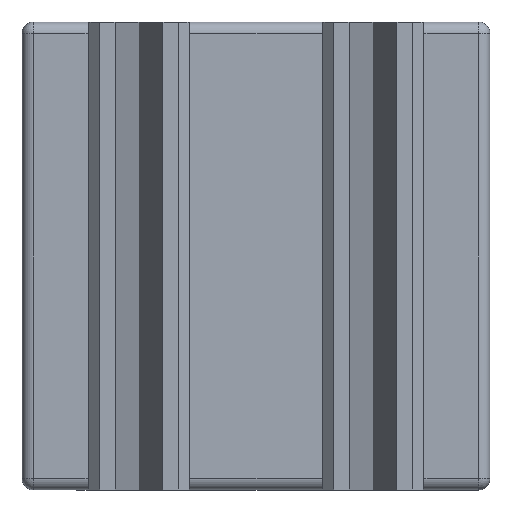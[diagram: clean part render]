
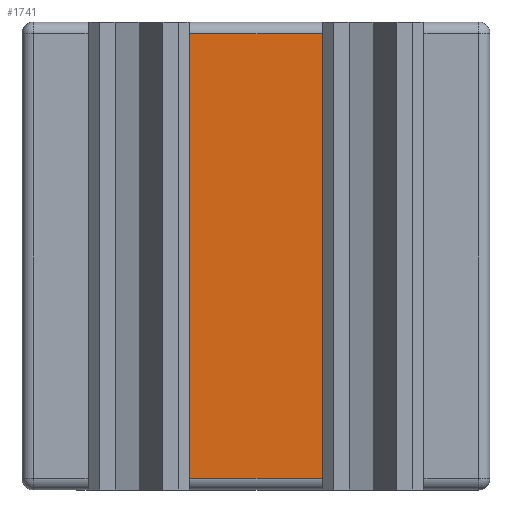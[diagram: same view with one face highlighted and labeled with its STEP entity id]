
A CAD part, front view. The second image highlights one B-rep face of the part: STEP entity #1741.
In plain terms, the highlighted planar face has unit normal (0, -1, 0).
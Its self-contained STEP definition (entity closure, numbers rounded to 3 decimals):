
#20=PLANE('',#1854);
#104=FACE_OUTER_BOUND('',#205,.T.);
#205=EDGE_LOOP('',(#1236,#1237,#1238,#1239));
#356=LINE('',#2548,#574);
#357=LINE('',#2551,#575);
#358=LINE('',#2553,#576);
#359=LINE('',#2554,#577);
#574=VECTOR('',#2033,10.);
#575=VECTOR('',#2036,10.);
#576=VECTOR('',#2037,10.);
#577=VECTOR('',#2038,10.);
#800=VERTEX_POINT('',#2541);
#803=VERTEX_POINT('',#2546);
#804=VERTEX_POINT('',#2550);
#805=VERTEX_POINT('',#2552);
#971=EDGE_CURVE('',#803,#800,#356,.T.);
#972=EDGE_CURVE('',#804,#803,#357,.T.);
#973=EDGE_CURVE('',#805,#804,#358,.T.);
#974=EDGE_CURVE('',#805,#800,#359,.T.);
#1236=ORIENTED_EDGE('',*,*,#971,.F.);
#1237=ORIENTED_EDGE('',*,*,#972,.F.);
#1238=ORIENTED_EDGE('',*,*,#973,.F.);
#1239=ORIENTED_EDGE('',*,*,#974,.T.);
#1741=ADVANCED_FACE('',(#104),#20,.T.);
#1854=AXIS2_PLACEMENT_3D('',#2549,#2034,#2035);
#2033=DIRECTION('',(1.,0.,0.));
#2034=DIRECTION('center_axis',(0.,-1.,0.));
#2035=DIRECTION('ref_axis',(1.,0.,0.));
#2036=DIRECTION('',(0.,0.,1.));
#2037=DIRECTION('',(-1.,0.,0.));
#2038=DIRECTION('',(0.,0.,1.));
#2541=CARTESIAN_POINT('',(-2.05,-5.,19.5));
#2546=CARTESIAN_POINT('',(-7.95,-5.,19.5));
#2548=CARTESIAN_POINT('',(-6.475,-5.,19.5));
#2549=CARTESIAN_POINT('Origin',(-7.95,-5.,0.));
#2550=CARTESIAN_POINT('',(-7.95,-5.,0.5));
#2551=CARTESIAN_POINT('',(-7.95,-5.,0.));
#2552=CARTESIAN_POINT('',(-2.05,-5.,0.5));
#2553=CARTESIAN_POINT('',(-6.475,-5.,0.5));
#2554=CARTESIAN_POINT('',(-2.05,-5.,0.));
